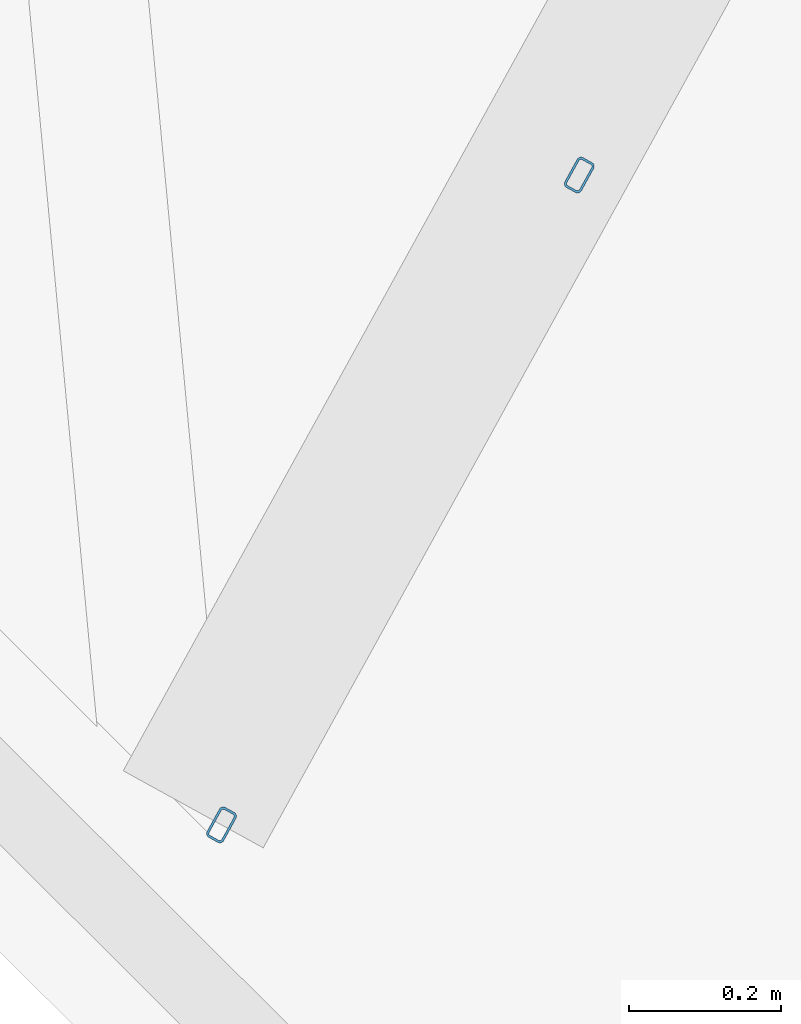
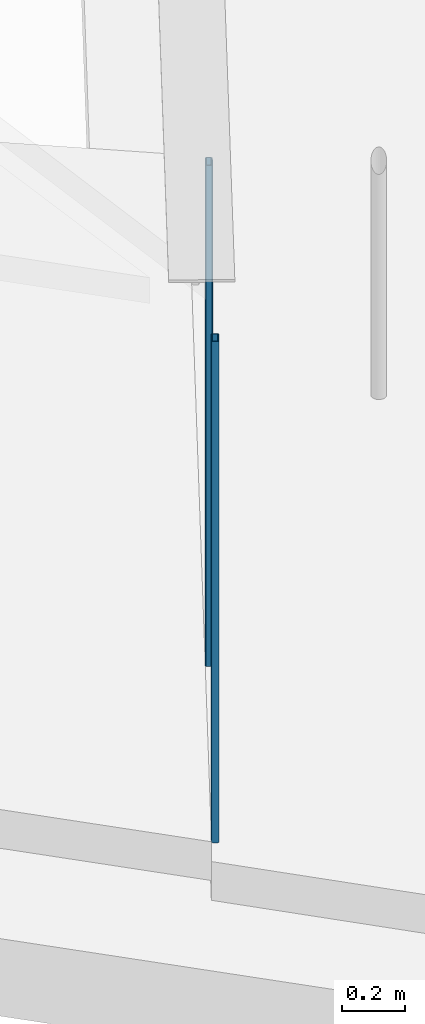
# One storey, part 1 of 33: 2 columns.
"""IFC2X3 building model written with IfcOpenShell, lengths in metres."""

from ifc_helpers import new_model, entity, si_unit, converted_unit, derived_unit, direction, frame, frame_2d, origin, place, context, subcontext, project, spatial, polyline, circle_curve, parameter, trimmed, segment, composite_curve, outline, extrude, source, transform, mapped, material, type_object, type_shapes, element, save


model = new_model("IFC2X3")

# Units and contexts
model_context = context("Model", 3, precision=1e-05, world=origin(), true_north=direction((6.123031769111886e-17, 1.0)))
body_context = subcontext(model_context, "Body", "Model", "MODEL_VIEW")
ifc_project = project(units=[si_unit("LENGTHUNIT", "METRE"), si_unit("AREAUNIT", "SQUARE_METRE"), si_unit("VOLUMEUNIT", "CUBIC_METRE"), converted_unit("PLANEANGLEUNIT", "DEGREE", entity("IfcRatioMeasure", 0.017453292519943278), si_unit("PLANEANGLEUNIT", "RADIAN"), dimensions=[0, 0, 0, 0, 0, 0, 0]), si_unit("MASSUNIT", "GRAM", prefix="KILO"), derived_unit("MASSDENSITYUNIT", [(si_unit("MASSUNIT", "GRAM", prefix="KILO"), 1), (si_unit("LENGTHUNIT", "METRE"), -3)]), derived_unit("IONCONCENTRATIONUNIT", [(si_unit("MASSUNIT", "GRAM", prefix="KILO"), 1), (si_unit("LENGTHUNIT", "METRE"), -3)]), derived_unit("MOMENTOFINERTIAUNIT", [(si_unit("LENGTHUNIT", "METRE"), 4)]), si_unit("TIMEUNIT", "SECOND"), si_unit("FREQUENCYUNIT", "HERTZ"), si_unit("THERMODYNAMICTEMPERATUREUNIT", "DEGREE_CELSIUS"), derived_unit("THERMALTRANSMITTANCEUNIT", [(si_unit("MASSUNIT", "GRAM", prefix="KILO"), 1), (si_unit("THERMODYNAMICTEMPERATUREUNIT", "KELVIN"), -1), (si_unit("TIMEUNIT", "SECOND"), -3)]), derived_unit("THERMALCONDUCTANCEUNIT", [(si_unit("MASSUNIT", "GRAM", prefix="KILO"), 1), (si_unit("THERMODYNAMICTEMPERATUREUNIT", "KELVIN"), -1), (si_unit("TIMEUNIT", "SECOND"), -3), (si_unit("LENGTHUNIT", "METRE"), 1)]), derived_unit("VOLUMETRICFLOWRATEUNIT", [(si_unit("LENGTHUNIT", "METRE"), 3), (si_unit("TIMEUNIT", "SECOND"), -1)]), derived_unit("MASSFLOWRATEUNIT", [(si_unit("MASSUNIT", "GRAM", prefix="KILO"), 1), (si_unit("TIMEUNIT", "SECOND"), -1)]), derived_unit("ROTATIONALFREQUENCYUNIT", [(si_unit("TIMEUNIT", "SECOND"), -1)]), si_unit("ELECTRICCURRENTUNIT", "AMPERE"), si_unit("ELECTRICVOLTAGEUNIT", "VOLT"), si_unit("POWERUNIT", "WATT"), si_unit("FORCEUNIT", "NEWTON", prefix="KILO"), si_unit("ILLUMINANCEUNIT", "LUX"), si_unit("LUMINOUSFLUXUNIT", "LUMEN"), si_unit("LUMINOUSINTENSITYUNIT", "CANDELA"), derived_unit("USERDEFINED", [(si_unit("MASSUNIT", "GRAM", prefix="KILO"), -1), (si_unit("LENGTHUNIT", "METRE"), -2), (si_unit("TIMEUNIT", "SECOND"), 3), (si_unit("LUMINOUSFLUXUNIT", "LUMEN"), 1)]), derived_unit("USERDEFINED", [(si_unit("MASSUNIT", "GRAM", prefix="KILO"), 1), (si_unit("TIMEUNIT", "SECOND"), -3), (si_unit("LENGTHUNIT", "METRE"), 3), (si_unit("ELECTRICCURRENTUNIT", "AMPERE"), -2)]), derived_unit("SOUNDPOWERUNIT", [(si_unit("MASSUNIT", "GRAM", prefix="KILO"), 1), (si_unit("TIMEUNIT", "SECOND"), -3), (si_unit("LENGTHUNIT", "METRE"), 2)]), derived_unit("SOUNDPRESSUREUNIT", [(si_unit("MASSUNIT", "GRAM", prefix="KILO"), 1), (si_unit("LENGTHUNIT", "METRE"), -1), (si_unit("TIMEUNIT", "SECOND"), -2)]), derived_unit("LINEARVELOCITYUNIT", [(si_unit("LENGTHUNIT", "METRE"), 1), (si_unit("TIMEUNIT", "SECOND"), -1)]), si_unit("PRESSUREUNIT", "PASCAL"), derived_unit("USERDEFINED", [(si_unit("MASSUNIT", "GRAM", prefix="KILO"), 1), (si_unit("LENGTHUNIT", "METRE"), -2), (si_unit("TIMEUNIT", "SECOND"), -2)]), derived_unit("LINEARFORCEUNIT", [(si_unit("MASSUNIT", "GRAM", prefix="KILO"), 1), (si_unit("TIMEUNIT", "SECOND"), -2)]), derived_unit("PLANARFORCEUNIT", [(si_unit("MASSUNIT", "GRAM", prefix="KILO"), 1), (si_unit("LENGTHUNIT", "METRE"), -1), (si_unit("TIMEUNIT", "SECOND"), -2)]), derived_unit("SPECIFICHEATCAPACITYUNIT", [(si_unit("THERMODYNAMICTEMPERATUREUNIT", "KELVIN"), -1), (si_unit("LENGTHUNIT", "METRE"), 2), (si_unit("TIMEUNIT", "SECOND"), -2)]), derived_unit("HEATINGVALUEUNIT", [(si_unit("LENGTHUNIT", "METRE"), 2), (si_unit("TIMEUNIT", "SECOND"), -2)]), derived_unit("VAPORPERMEABILITYUNIT", [(si_unit("LENGTHUNIT", "METRE"), -1), (si_unit("TIMEUNIT", "SECOND"), 1)]), derived_unit("DYNAMICVISCOSITYUNIT", [(si_unit("MASSUNIT", "GRAM", prefix="KILO"), 1), (si_unit("TIMEUNIT", "SECOND"), -1), (si_unit("LENGTHUNIT", "METRE"), -1)]), derived_unit("THERMALEXPANSIONCOEFFICIENTUNIT", [(si_unit("THERMODYNAMICTEMPERATUREUNIT", "KELVIN"), -1)]), derived_unit("MODULUSOFELASTICITYUNIT", [(si_unit("MASSUNIT", "GRAM", prefix="KILO"), 1), (si_unit("LENGTHUNIT", "METRE"), -1), (si_unit("TIMEUNIT", "SECOND"), -2)]), derived_unit("ISOTHERMALMOISTURECAPACITYUNIT", [(si_unit("LENGTHUNIT", "METRE"), 3), (si_unit("MASSUNIT", "GRAM", prefix="KILO"), -1)]), derived_unit("MOISTUREDIFFUSIVITYUNIT", [(si_unit("TIMEUNIT", "SECOND"), -1), (si_unit("LENGTHUNIT", "METRE"), 2)])], contexts=[model_context])

# Site, building, storey
site_placement = place(None, origin())
site = spatial("IfcSite", under=ifc_project, at=site_placement, Name="Superficie", CompositionType="ELEMENT")
building_placement = place(site_placement, frame((0.0, 0.0, 235.0), z_axis=(0.0, 0.0, 1.0), x_axis=(-0.7996477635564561, 0.6004693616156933, 0.0)))
building = spatial("IfcBuilding", under=site, at=building_placement, CompositionType="ELEMENT")
storey_placement = place(building_placement, origin())
storey = spatial("IfcBuildingStorey", under=building, at=storey_placement, Name="P0- Escola", CompositionType="ELEMENT", Elevation=0.0)

# Columns
ifc_material = material(Name="Metal - Acero - 345 MPa")
column_type = type_object("IfcColumnType", Name="STR- P- Acer- RHS- Rectangular- T1:45 x 25RHS", PredefinedType="COLUMN", material=ifc_material)
shared_shape = source(origin(), body_context, "Body", "SweptSolid", [
    extrude(outline(composite_curve([segment(polyline([(-0.006500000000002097, -0.022499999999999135), (0.0065000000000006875, -0.022499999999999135)]), True, "CONTINUOUS"), segment(trimmed(circle_curve(frame_2d((0.0065000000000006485, -0.016500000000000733), x_axis=(-1.0, 0.0)), 0.005999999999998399), [parameter(90.00000000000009)], [parameter(180.00000000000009)], True, "PARAMETER"), True, "CONTINUOUS"), segment(polyline([(0.012499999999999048, -0.01650000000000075), (0.012499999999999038, 0.01650000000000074)]), True, "CONTINUOUS"), segment(trimmed(circle_curve(frame_2d((0.006499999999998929, 0.016500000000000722), x_axis=(-1.0, 0.0)), 0.006000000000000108), [parameter(179.99999999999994)], [parameter(269.99999999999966)], True, "PARAMETER"), True, "CONTINUOUS"), segment(polyline([(0.006499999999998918, 0.022500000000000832), (-0.006499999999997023, 0.022500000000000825)]), True, "CONTINUOUS"), segment(trimmed(circle_curve(frame_2d((-0.006499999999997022, 0.016499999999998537), x_axis=(-1.0, 0.0)), 0.0060000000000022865), [parameter(269.99999999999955)], [parameter(359.9999999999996)], True, "PARAMETER"), True, "CONTINUOUS"), segment(polyline([(-0.012499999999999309, 0.01649999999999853), (-0.012499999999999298, -0.01650000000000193)]), True, "CONTINUOUS"), segment(trimmed(circle_curve(frame_2d((-0.006500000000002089, -0.01650000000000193), x_axis=(-1.0, 0.0)), 0.005999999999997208), [parameter(359.99999999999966)], [parameter(89.99999999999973)], True, "PARAMETER"), True, "CONTINUOUS")], self_intersect=False), holes=[composite_curve([segment(trimmed(circle_curve(frame_2d((-0.006500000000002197, -0.01650000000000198), x_axis=(-1.0, 0.0)), 0.0029999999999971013), [parameter(0.0)], [parameter(90.00000000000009)], True, "PARAMETER"), False, "CONTINUOUS"), segment(polyline([(-0.009499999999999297, -0.01650000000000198), (-0.009499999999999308, 0.01650000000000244)]), True, "CONTINUOUS"), segment(trimmed(circle_curve(frame_2d((-0.006500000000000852, 0.016500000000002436), x_axis=(-1.0, 0.0)), 0.0029999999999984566), [parameter(269.9999999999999)], [parameter(1.0177774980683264e-13)], True, "PARAMETER"), False, "CONTINUOUS"), segment(polyline([(-0.006500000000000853, 0.019500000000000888), (0.006499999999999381, 0.019500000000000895)]), True, "CONTINUOUS"), segment(trimmed(circle_curve(frame_2d((0.006499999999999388, 0.0164999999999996), x_axis=(-1.0, 0.0)), 0.0030000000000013), [parameter(179.99999999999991)], [parameter(270.0)], True, "PARAMETER"), False, "CONTINUOUS"), segment(polyline([(0.009500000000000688, 0.01649999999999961), (0.009500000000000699, -0.016499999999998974)]), True, "CONTINUOUS"), segment(trimmed(circle_curve(frame_2d((0.006500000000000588, -0.016499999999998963), x_axis=(-1.0, 0.0)), 0.0030000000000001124), [parameter(90.00000000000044)], [parameter(180.00000000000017)], True, "PARAMETER"), False, "CONTINUOUS"), segment(polyline([(0.006500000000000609, -0.019499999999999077), (-0.006500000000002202, -0.019499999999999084)]), True, "CONTINUOUS")], self_intersect=False)]), frame((0.0, 0.0, -0.22099999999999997), z_axis=(0.0, 0.0, 1.0), x_axis=(-1.0, 0.0, 0.0)), (0.0, 0.0, 1.0), 1.941),
])
type_shapes(column_type, [shared_shape])
for number, where, z_axis, x_axis, name in (
    (1, (27.69626049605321, -7.542400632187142, 0.0), (0.0, 0.0, 1.0), (0.9900940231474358, 0.14040593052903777, 0.0), "STR- P- Acer- RHS- Rectangular- T1:45 x 25RHS"),
    (2, (27.55936472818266, -6.577059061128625, 0.0), (0.0, 0.0, 1.0), (0.9900940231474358, 0.14040593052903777, 0.0), "STR- P- Acer- RHS- Rectangular- T1:45 x 25RHS"),
):
    element("IfcColumn", number, at=place(storey_placement, frame(where, z_axis=z_axis, x_axis=x_axis)), inside=storey, type_object=column_type, material=ifc_material, Name=name, ObjectType="STR- P- Acer- RHS- Rectangular- T1:45 x 25RHS", context=body_context, shape_type="MappedRepresentation", body=[
        mapped(shared_shape, transform((0.0, 0.0, 0.0), scale=1.0)),
    ])

save(model, "model.ifc")
